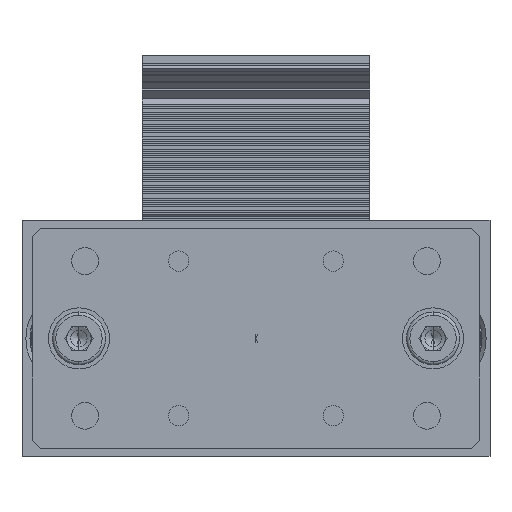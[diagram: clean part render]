
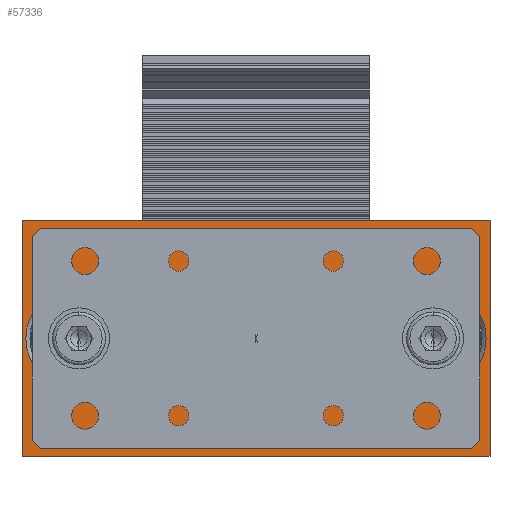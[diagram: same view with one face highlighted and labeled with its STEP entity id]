
A CAD part, left-side view. The second image highlights one B-rep face of the part: STEP entity #57336.
In plain terms, the highlighted planar face has unit normal (-1, 0, 0).
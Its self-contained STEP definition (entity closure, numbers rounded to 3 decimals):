
#2408 = DIRECTION ( 'NONE',  ( 1., 0., 0. ) ) ;
#4891 = DIRECTION ( 'NONE',  ( 1., 0., 0. ) ) ;
#5603 = VECTOR ( 'NONE', #56971, 1000. ) ;
#6932 = DIRECTION ( 'NONE',  ( 0., 1., 0. ) ) ;
#8601 = CIRCLE ( 'NONE', #19868, 13.05 ) ;
#9943 = VECTOR ( 'NONE', #35319, 1000. ) ;
#11515 = DIRECTION ( 'NONE',  ( 0., 1., 0. ) ) ;
#11575 = AXIS2_PLACEMENT_3D ( 'NONE', #76960, #57640, #23456 ) ;
#11662 = EDGE_LOOP ( 'NONE', ( #24293, #47087 ) ) ;
#12123 = CARTESIAN_POINT ( 'NONE',  ( -70., -57.5, -29. ) ) ;
#12447 = ORIENTED_EDGE ( 'NONE', *, *, #44378, .F. ) ;
#13622 = CIRCLE ( 'NONE', #34507, 13.05 ) ;
#13953 = CIRCLE ( 'NONE', #68571, 3.5 ) ;
#14030 = DIRECTION ( 'NONE',  ( 0., -1., 0. ) ) ;
#14294 = VERTEX_POINT ( 'NONE', #46201 ) ;
#16009 = VERTEX_POINT ( 'NONE', #21064 ) ;
#16449 = VECTOR ( 'NONE', #34392, 1000. ) ;
#16707 = DIRECTION ( 'NONE',  ( 1., 0., 0. ) ) ;
#16936 = DIRECTION ( 'NONE',  ( 0., 1., 0. ) ) ;
#18816 = VECTOR ( 'NONE', #14030, 1000. ) ;
#19868 = AXIS2_PLACEMENT_3D ( 'NONE', #70035, #48968, #62993 ) ;
#20142 = PLANE ( 'NONE',  #69140 ) ;
#21064 = CARTESIAN_POINT ( 'NONE',  ( -70., 57.5, 29. ) ) ;
#23456 = DIRECTION ( 'NONE',  ( 0., 1., 0. ) ) ;
#24293 = ORIENTED_EDGE ( 'NONE', *, *, #60209, .T. ) ;
#26571 = ORIENTED_EDGE ( 'NONE', *, *, #76319, .T. ) ;
#26772 = FACE_OUTER_BOUND ( 'NONE', #47062, .T. ) ;
#27646 = AXIS2_PLACEMENT_3D ( 'NONE', #73321, #45716, #49142 ) ;
#28479 = ORIENTED_EDGE ( 'NONE', *, *, #67339, .F. ) ;
#30049 = CARTESIAN_POINT ( 'NONE',  ( -70., 43.5, 13.05 ) ) ;
#30338 = VERTEX_POINT ( 'NONE', #54245 ) ;
#33106 = ORIENTED_EDGE ( 'NONE', *, *, #42938, .T. ) ;
#33254 = VERTEX_POINT ( 'NONE', #76485 ) ;
#33342 = FACE_BOUND ( 'NONE', #73870, .T. ) ;
#34392 = DIRECTION ( 'NONE',  ( 0., -1., 0. ) ) ;
#34507 = AXIS2_PLACEMENT_3D ( 'NONE', #86228, #4891, #11515 ) ;
#35319 = DIRECTION ( 'NONE',  ( 0., 0., -1. ) ) ;
#37160 = CARTESIAN_POINT ( 'NONE',  ( -70., 0., 0. ) ) ;
#37336 = EDGE_CURVE ( 'NONE', #64578, #33254, #13622, .T. ) ;
#39926 = CARTESIAN_POINT ( 'NONE',  ( -70., -57.5, 29. ) ) ;
#40946 = VERTEX_POINT ( 'NONE', #30049 ) ;
#41249 = CARTESIAN_POINT ( 'NONE',  ( -70., 3.5, 0. ) ) ;
#42907 = ORIENTED_EDGE ( 'NONE', *, *, #54556, .T. ) ;
#42938 = EDGE_CURVE ( 'NONE', #54182, #62456, #74220, .T. ) ;
#43453 = DIRECTION ( 'NONE',  ( 0., 1., 0. ) ) ;
#43810 = LINE ( 'NONE', #70134, #5603 ) ;
#44378 = EDGE_CURVE ( 'NONE', #56146, #62456, #43810, .T. ) ;
#45197 = CIRCLE ( 'NONE', #11575, 3.5 ) ;
#45716 = DIRECTION ( 'NONE',  ( 1., 0., 0. ) ) ;
#46201 = CARTESIAN_POINT ( 'NONE',  ( -70., -3.5, 0. ) ) ;
#46884 = CARTESIAN_POINT ( 'NONE',  ( -70., 57.5, 29. ) ) ;
#47062 = EDGE_LOOP ( 'NONE', ( #33106, #12447, #28479, #42907 ) ) ;
#47087 = ORIENTED_EDGE ( 'NONE', *, *, #54982, .T. ) ;
#47370 = LINE ( 'NONE', #79911, #18816 ) ;
#48842 = CARTESIAN_POINT ( 'NONE',  ( -70., 57.5, 29. ) ) ;
#48968 = DIRECTION ( 'NONE',  ( 1., 0., 0. ) ) ;
#49142 = DIRECTION ( 'NONE',  ( 0., 1., 0. ) ) ;
#50483 = CIRCLE ( 'NONE', #67242, 13.05 ) ;
#50733 = EDGE_LOOP ( 'NONE', ( #26571, #81633 ) ) ;
#52167 = ORIENTED_EDGE ( 'NONE', *, *, #37336, .T. ) ;
#53241 = VERTEX_POINT ( 'NONE', #41249 ) ;
#54182 = VERTEX_POINT ( 'NONE', #56520 ) ;
#54245 = CARTESIAN_POINT ( 'NONE',  ( -70., 43.5, -13.05 ) ) ;
#54556 = EDGE_CURVE ( 'NONE', #16009, #54182, #82705, .T. ) ;
#54982 = EDGE_CURVE ( 'NONE', #30338, #40946, #50483, .T. ) ;
#56146 = VERTEX_POINT ( 'NONE', #39926 ) ;
#56520 = CARTESIAN_POINT ( 'NONE',  ( -70., 57.5, -29. ) ) ;
#56971 = DIRECTION ( 'NONE',  ( 0., 0., -1. ) ) ;
#57336 = ADVANCED_FACE ( 'NONE', ( #33342, #60011, #86937, #26772 ), #20142, .F. ) ;
#57640 = DIRECTION ( 'NONE',  ( 1., 0., 0. ) ) ;
#60011 = FACE_BOUND ( 'NONE', #11662, .T. ) ;
#60209 = EDGE_CURVE ( 'NONE', #40946, #30338, #65340, .T. ) ;
#62456 = VERTEX_POINT ( 'NONE', #12123 ) ;
#62993 = DIRECTION ( 'NONE',  ( 0., 1., 0. ) ) ;
#64216 = ORIENTED_EDGE ( 'NONE', *, *, #75982, .T. ) ;
#64578 = VERTEX_POINT ( 'NONE', #75272 ) ;
#65340 = CIRCLE ( 'NONE', #27646, 13.05 ) ;
#67242 = AXIS2_PLACEMENT_3D ( 'NONE', #70240, #16707, #43453 ) ;
#67339 = EDGE_CURVE ( 'NONE', #16009, #56146, #47370, .T. ) ;
#67640 = CARTESIAN_POINT ( 'NONE',  ( -70., 57.5, -29. ) ) ;
#68571 = AXIS2_PLACEMENT_3D ( 'NONE', #37160, #2408, #16936 ) ;
#69140 = AXIS2_PLACEMENT_3D ( 'NONE', #46884, #73627, #6932 ) ;
#70035 = CARTESIAN_POINT ( 'NONE',  ( -70., -43.5, 0. ) ) ;
#70134 = CARTESIAN_POINT ( 'NONE',  ( -70., -57.5, 29. ) ) ;
#70240 = CARTESIAN_POINT ( 'NONE',  ( -70., 43.5, 0. ) ) ;
#72005 = EDGE_CURVE ( 'NONE', #14294, #53241, #13953, .T. ) ;
#73321 = CARTESIAN_POINT ( 'NONE',  ( -70., 43.5, 0. ) ) ;
#73627 = DIRECTION ( 'NONE',  ( 1., 0., 0. ) ) ;
#73870 = EDGE_LOOP ( 'NONE', ( #64216, #52167 ) ) ;
#74220 = LINE ( 'NONE', #67640, #16449 ) ;
#75272 = CARTESIAN_POINT ( 'NONE',  ( -70., -43.5, -13.05 ) ) ;
#75982 = EDGE_CURVE ( 'NONE', #33254, #64578, #8601, .T. ) ;
#76319 = EDGE_CURVE ( 'NONE', #53241, #14294, #45197, .T. ) ;
#76485 = CARTESIAN_POINT ( 'NONE',  ( -70., -43.5, 13.05 ) ) ;
#76960 = CARTESIAN_POINT ( 'NONE',  ( -70., 0., 0. ) ) ;
#79911 = CARTESIAN_POINT ( 'NONE',  ( -70., 57.5, 29. ) ) ;
#81633 = ORIENTED_EDGE ( 'NONE', *, *, #72005, .T. ) ;
#82705 = LINE ( 'NONE', #48842, #9943 ) ;
#86228 = CARTESIAN_POINT ( 'NONE',  ( -70., -43.5, 0. ) ) ;
#86937 = FACE_BOUND ( 'NONE', #50733, .T. ) ;
